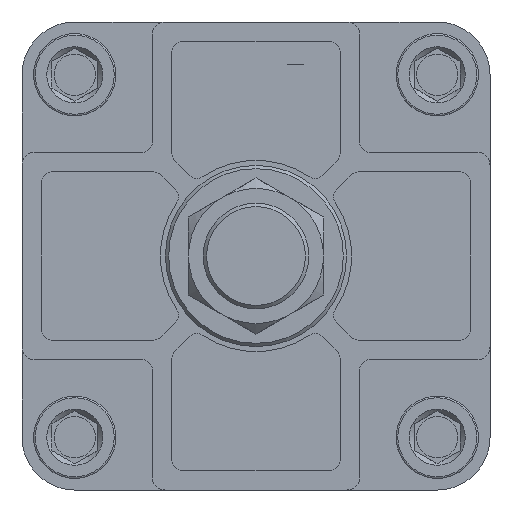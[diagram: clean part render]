
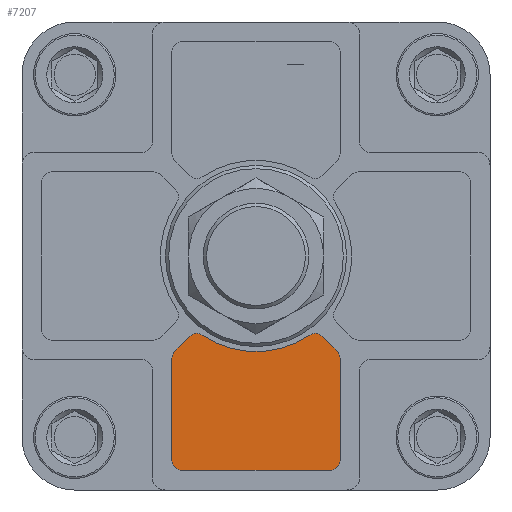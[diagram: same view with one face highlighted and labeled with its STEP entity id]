
A CAD part, front view. The second image highlights one B-rep face of the part: STEP entity #7207.
In plain terms, the highlighted planar face has unit normal (0, -1, 0).
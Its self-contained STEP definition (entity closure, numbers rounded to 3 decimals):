
#244=CIRCLE('',#7569,3.);
#245=CIRCLE('',#7570,3.);
#246=CIRCLE('',#7571,3.);
#247=CIRCLE('',#7572,3.);
#248=CIRCLE('',#7573,3.);
#249=CIRCLE('',#7574,29.);
#250=CIRCLE('',#7575,3.);
#592=ORIENTED_EDGE('',*,*,#2093,.F.);
#593=ORIENTED_EDGE('',*,*,#2094,.T.);
#594=ORIENTED_EDGE('',*,*,#2095,.F.);
#595=ORIENTED_EDGE('',*,*,#2096,.T.);
#596=ORIENTED_EDGE('',*,*,#2097,.F.);
#597=ORIENTED_EDGE('',*,*,#2098,.T.);
#598=ORIENTED_EDGE('',*,*,#2099,.F.);
#599=ORIENTED_EDGE('',*,*,#2100,.T.);
#600=ORIENTED_EDGE('',*,*,#2101,.F.);
#601=ORIENTED_EDGE('',*,*,#2102,.T.);
#602=ORIENTED_EDGE('',*,*,#2103,.F.);
#603=ORIENTED_EDGE('',*,*,#2104,.T.);
#2093=EDGE_CURVE('',#2845,#2846,#3376,.T.);
#2094=EDGE_CURVE('',#2845,#2847,#244,.F.);
#2095=EDGE_CURVE('',#2848,#2847,#3377,.T.);
#2096=EDGE_CURVE('',#2848,#2849,#245,.F.);
#2097=EDGE_CURVE('',#2850,#2849,#3378,.T.);
#2098=EDGE_CURVE('',#2850,#2851,#246,.F.);
#2099=EDGE_CURVE('',#2852,#2851,#3379,.T.);
#2100=EDGE_CURVE('',#2852,#2853,#247,.F.);
#2101=EDGE_CURVE('',#2854,#2853,#3380,.T.);
#2102=EDGE_CURVE('',#2854,#2855,#248,.F.);
#2103=EDGE_CURVE('',#2856,#2855,#249,.T.);
#2104=EDGE_CURVE('',#2856,#2846,#250,.F.);
#2845=VERTEX_POINT('',#9943);
#2846=VERTEX_POINT('',#9944);
#2847=VERTEX_POINT('',#9946);
#2848=VERTEX_POINT('',#9948);
#2849=VERTEX_POINT('',#9950);
#2850=VERTEX_POINT('',#9952);
#2851=VERTEX_POINT('',#9954);
#2852=VERTEX_POINT('',#9956);
#2853=VERTEX_POINT('',#9958);
#2854=VERTEX_POINT('',#9960);
#2855=VERTEX_POINT('',#9962);
#2856=VERTEX_POINT('',#9964);
#3376=LINE('',#9942,#3806);
#3377=LINE('',#9947,#3807);
#3378=LINE('',#9951,#3808);
#3379=LINE('',#9955,#3809);
#3380=LINE('',#9959,#3810);
#3806=VECTOR('',#8241,1000.);
#3807=VECTOR('',#8244,1000.);
#3808=VECTOR('',#8247,1000.);
#3809=VECTOR('',#8250,1000.);
#3810=VECTOR('',#8253,1000.);
#4233=EDGE_LOOP('',(#592,#593,#594,#595,#596,#597,#598,#599,#600,#601,#602,
#603));
#4673=FACE_BOUND('',#4233,.T.);
#5107=PLANE('',#7568);
#7207=ADVANCED_FACE('',(#4673),#5107,.F.);
#7568=AXIS2_PLACEMENT_3D('',#9941,#8239,#8240);
#7569=AXIS2_PLACEMENT_3D('',#9945,#8242,#8243);
#7570=AXIS2_PLACEMENT_3D('',#9949,#8245,#8246);
#7571=AXIS2_PLACEMENT_3D('',#9953,#8248,#8249);
#7572=AXIS2_PLACEMENT_3D('',#9957,#8251,#8252);
#7573=AXIS2_PLACEMENT_3D('',#9961,#8254,#8255);
#7574=AXIS2_PLACEMENT_3D('',#9963,#8256,#8257);
#7575=AXIS2_PLACEMENT_3D('',#9965,#8258,#8259);
#8239=DIRECTION('',(0.,1.,0.));
#8240=DIRECTION('',(0.,0.,1.));
#8241=DIRECTION('',(0.707,0.,0.707));
#8242=DIRECTION('',(0.,1.,0.));
#8243=DIRECTION('',(0.,0.,1.));
#8244=DIRECTION('',(0.,0.,1.));
#8245=DIRECTION('',(0.,1.,0.));
#8246=DIRECTION('',(0.,0.,1.));
#8247=DIRECTION('',(-1.,0.,0.));
#8248=DIRECTION('',(0.,1.,0.));
#8249=DIRECTION('',(0.,0.,1.));
#8250=DIRECTION('',(0.,0.,-1.));
#8251=DIRECTION('',(0.,1.,0.));
#8252=DIRECTION('',(0.,0.,1.));
#8253=DIRECTION('',(0.707,0.,-0.707));
#8254=DIRECTION('',(0.,1.,0.));
#8255=DIRECTION('',(0.,0.,1.));
#8256=DIRECTION('',(0.,-1.,0.));
#8257=DIRECTION('',(1.,0.,0.));
#8258=DIRECTION('',(0.,1.,0.));
#8259=DIRECTION('',(0.,0.,1.));
#9941=CARTESIAN_POINT('',(0.,-29.,0.));
#9942=CARTESIAN_POINT('',(-18.275,-29.,-22.517));
#9943=CARTESIAN_POINT('',(-24.621,-29.,-28.864));
#9944=CARTESIAN_POINT('',(-20.105,-29.,-24.347));
#9945=CARTESIAN_POINT('',(-22.5,-29.,-30.985));
#9946=CARTESIAN_POINT('',(-25.5,-29.,-30.985));
#9947=CARTESIAN_POINT('',(-25.5,-29.,-31.5));
#9948=CARTESIAN_POINT('',(-25.5,-29.,-62.));
#9949=CARTESIAN_POINT('',(-22.5,-29.,-62.));
#9950=CARTESIAN_POINT('',(-22.5,-29.,-65.));
#9951=CARTESIAN_POINT('',(-25.5,-29.,-65.));
#9952=CARTESIAN_POINT('',(22.5,-29.,-65.));
#9953=CARTESIAN_POINT('',(22.5,-29.,-62.));
#9954=CARTESIAN_POINT('',(25.5,-29.,-62.));
#9955=CARTESIAN_POINT('',(25.5,-29.,-65.));
#9956=CARTESIAN_POINT('',(25.5,-29.,-30.985));
#9957=CARTESIAN_POINT('',(22.5,-29.,-30.985));
#9958=CARTESIAN_POINT('',(24.621,-29.,-28.864));
#9959=CARTESIAN_POINT('',(18.275,-29.,-22.517));
#9960=CARTESIAN_POINT('',(20.105,-29.,-24.347));
#9961=CARTESIAN_POINT('',(17.983,-29.,-26.469));
#9962=CARTESIAN_POINT('',(16.298,-29.,-23.987));
#9963=CARTESIAN_POINT('',(0.,-29.,0.));
#9964=CARTESIAN_POINT('',(-16.298,-29.,-23.987));
#9965=CARTESIAN_POINT('',(-17.983,-29.,-26.469));
